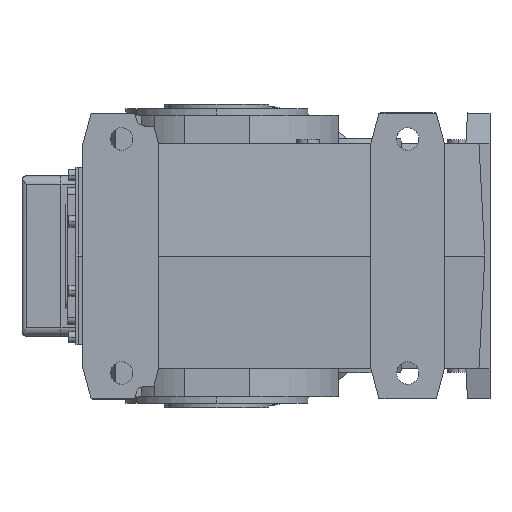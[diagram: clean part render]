
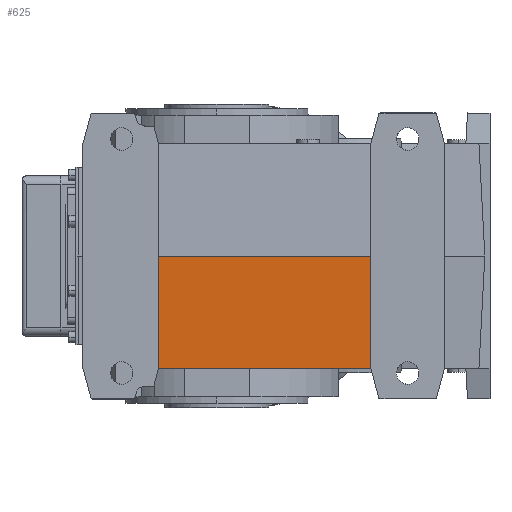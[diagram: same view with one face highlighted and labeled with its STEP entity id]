
A CAD part, left-side view. The second image highlights one B-rep face of the part: STEP entity #625.
In plain terms, the highlighted planar face has unit normal (-0.999, 0, -0.052).
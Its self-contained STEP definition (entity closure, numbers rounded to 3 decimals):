
#625 = ADVANCED_FACE( '', ( #1852 ), #1853, .F. );
#1852 = FACE_OUTER_BOUND( '', #3862, .T. );
#1853 = PLANE( '', #3863 );
#3862 = EDGE_LOOP( '', ( #7282, #7283, #7284, #7285 ) );
#3863 = AXIS2_PLACEMENT_3D( '', #7286, #7287, #7288 );
#7282 = ORIENTED_EDGE( '', *, *, #13699, .F. );
#7283 = ORIENTED_EDGE( '', *, *, #13696, .F. );
#7284 = ORIENTED_EDGE( '', *, *, #13700, .F. );
#7285 = ORIENTED_EDGE( '', *, *, #13701, .T. );
#7286 = CARTESIAN_POINT( '', ( -194., 67.5, 0. ) );
#7287 = DIRECTION( '', ( 0.999, 0., 0.052 ) );
#7288 = DIRECTION( '', ( -0.052, 0., 0.999 ) );
#13696 = EDGE_CURVE( '', #16625, #16627, #16628, .T. );
#13699 = EDGE_CURVE( '', #16627, #16632, #16633, .T. );
#13700 = EDGE_CURVE( '', #16634, #16625, #16635, .T. );
#13701 = EDGE_CURVE( '', #16634, #16632, #16636, .T. );
#16625 = VERTEX_POINT( '', #21199 );
#16627 = VERTEX_POINT( '', #21202 );
#16628 = LINE( '', #21203, #21204 );
#16632 = VERTEX_POINT( '', #21210 );
#16633 = LINE( '', #21211, #21212 );
#16634 = VERTEX_POINT( '', #21213 );
#16635 = LINE( '', #21214, #21215 );
#16636 = LINE( '', #21216, #21217 );
#21199 = CARTESIAN_POINT( '', ( -194., -177.5, 0. ) );
#21202 = CARTESIAN_POINT( '', ( -187.187, -177.5, -130. ) );
#21203 = CARTESIAN_POINT( '', ( -194., -177.5, 0. ) );
#21204 = VECTOR( '', #27179, 1. );
#21210 = CARTESIAN_POINT( '', ( -187.187, 67.5, -130. ) );
#21211 = CARTESIAN_POINT( '', ( -187.187, 16.25, -130. ) );
#21212 = VECTOR( '', #27182, 1. );
#21213 = CARTESIAN_POINT( '', ( -194., 67.5, 0. ) );
#21214 = CARTESIAN_POINT( '', ( -194., 67.5, 0. ) );
#21215 = VECTOR( '', #27183, 1. );
#21216 = CARTESIAN_POINT( '', ( -194., 67.5, 0. ) );
#21217 = VECTOR( '', #27184, 1. );
#27179 = DIRECTION( '', ( 0.052, 0., -0.999 ) );
#27182 = DIRECTION( '', ( 0., 1., 0. ) );
#27183 = DIRECTION( '', ( 0., -1., 0. ) );
#27184 = DIRECTION( '', ( 0.052, 0., -0.999 ) );
